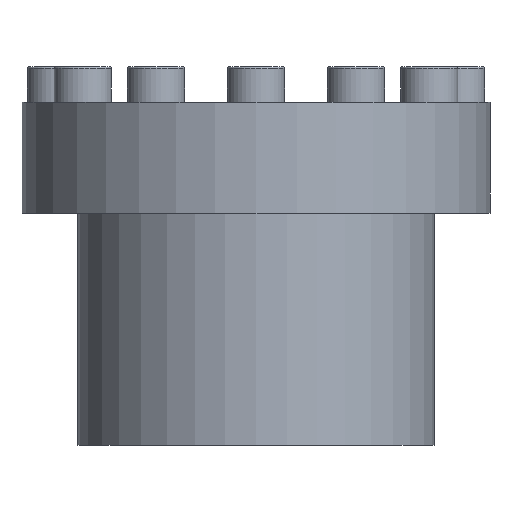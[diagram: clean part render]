
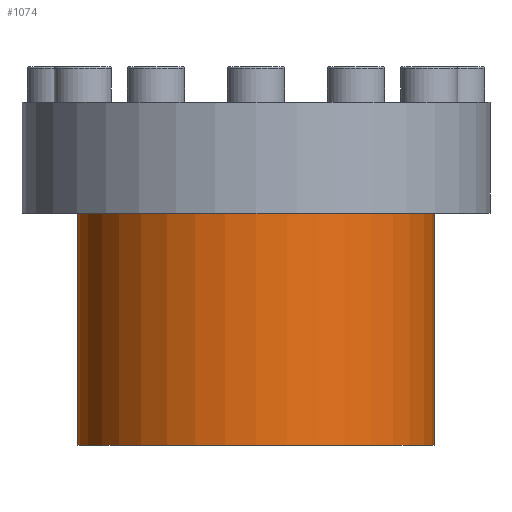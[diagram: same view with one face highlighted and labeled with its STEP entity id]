
A CAD part, front view. The second image highlights one B-rep face of the part: STEP entity #1074.
In plain terms, the highlighted cylindrical face has radius 49.9 mm (diameter 99.8 mm), a partial arc.
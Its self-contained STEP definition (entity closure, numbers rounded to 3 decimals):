
#106 = CARTESIAN_POINT ( 'NONE',  ( -49.9, 0., -31. ) ) ;
#269 = CIRCLE ( 'NONE', #1127, 49.9 ) ;
#288 = ORIENTED_EDGE ( 'NONE', *, *, #2783, .F. ) ;
#439 = FACE_OUTER_BOUND ( 'NONE', #1512, .T. ) ;
#751 = CYLINDRICAL_SURFACE ( 'NONE', #3397, 49.9 ) ;
#844 = CARTESIAN_POINT ( 'NONE',  ( 49.9, 0., -31. ) ) ;
#920 = DIRECTION ( 'NONE',  ( 0., 0., 1. ) ) ;
#943 = EDGE_CURVE ( 'NONE', #1417, #973, #269, .T. ) ;
#973 = VERTEX_POINT ( 'NONE', #3241 ) ;
#1074 = ADVANCED_FACE ( 'NONE', ( #439 ), #751, .T. ) ;
#1127 = AXIS2_PLACEMENT_3D ( 'NONE', #1246, #2928, #3212 ) ;
#1246 = CARTESIAN_POINT ( 'NONE',  ( 0., 0., -96. ) ) ;
#1417 = VERTEX_POINT ( 'NONE', #3940 ) ;
#1512 = EDGE_LOOP ( 'NONE', ( #2100, #3012, #2724, #288 ) ) ;
#1643 = DIRECTION ( 'NONE',  ( 1., 0., 0. ) ) ;
#1816 = VERTEX_POINT ( 'NONE', #106 ) ;
#1839 = DIRECTION ( 'NONE',  ( 0., 0., 1. ) ) ;
#1893 = EDGE_CURVE ( 'NONE', #973, #3884, #3065, .T. ) ;
#1949 = CARTESIAN_POINT ( 'NONE',  ( 0., 0., 0. ) ) ;
#2100 = ORIENTED_EDGE ( 'NONE', *, *, #4154, .F. ) ;
#2364 = VECTOR ( 'NONE', #4030, 1000. ) ;
#2547 = AXIS2_PLACEMENT_3D ( 'NONE', #3861, #4190, #3522 ) ;
#2724 = ORIENTED_EDGE ( 'NONE', *, *, #1893, .T. ) ;
#2783 = EDGE_CURVE ( 'NONE', #1816, #3884, #3747, .T. ) ;
#2870 = CARTESIAN_POINT ( 'NONE',  ( 49.9, 0., 0. ) ) ;
#2928 = DIRECTION ( 'NONE',  ( 0., 0., 1. ) ) ;
#3012 = ORIENTED_EDGE ( 'NONE', *, *, #943, .T. ) ;
#3065 = LINE ( 'NONE', #2870, #4186 ) ;
#3212 = DIRECTION ( 'NONE',  ( 1., 0., 0. ) ) ;
#3241 = CARTESIAN_POINT ( 'NONE',  ( 49.9, 0., -96. ) ) ;
#3397 = AXIS2_PLACEMENT_3D ( 'NONE', #1949, #920, #1643 ) ;
#3522 = DIRECTION ( 'NONE',  ( 1., 0., 0. ) ) ;
#3735 = LINE ( 'NONE', #3742, #2364 ) ;
#3742 = CARTESIAN_POINT ( 'NONE',  ( -49.9, 0., 0. ) ) ;
#3747 = CIRCLE ( 'NONE', #2547, 49.9 ) ;
#3861 = CARTESIAN_POINT ( 'NONE',  ( 0., 0., -31. ) ) ;
#3884 = VERTEX_POINT ( 'NONE', #844 ) ;
#3940 = CARTESIAN_POINT ( 'NONE',  ( -49.9, 0., -96. ) ) ;
#4030 = DIRECTION ( 'NONE',  ( 0., 0., 1. ) ) ;
#4154 = EDGE_CURVE ( 'NONE', #1417, #1816, #3735, .T. ) ;
#4186 = VECTOR ( 'NONE', #1839, 1000. ) ;
#4190 = DIRECTION ( 'NONE',  ( 0., 0., 1. ) ) ;
